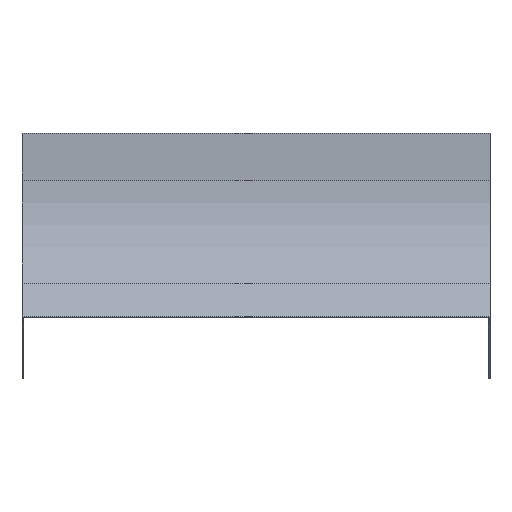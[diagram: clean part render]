
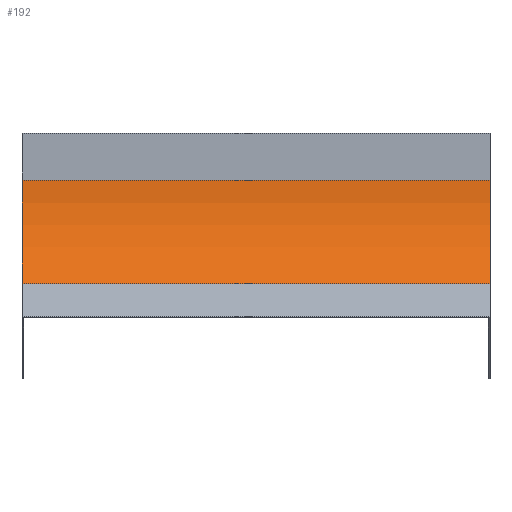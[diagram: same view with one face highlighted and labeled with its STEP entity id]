
A CAD part, front view. The second image highlights one B-rep face of the part: STEP entity #192.
In plain terms, the highlighted cylindrical face has radius 125 mm (diameter 250 mm), a partial arc.
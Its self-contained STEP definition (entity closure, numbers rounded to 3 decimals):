
#24 = EDGE_CURVE ( 'NONE', #1502, #1222, #84, .T. ) ;
#64 = VECTOR ( 'NONE', #1383, 1000. ) ;
#84 = CIRCLE ( 'NONE', #604, 125. ) ;
#149 = CARTESIAN_POINT ( 'NONE',  ( 200., -125., -40. ) ) ;
#192 = ADVANCED_FACE ( 'NONE', ( #1182 ), #1438, .F. ) ;
#241 = DIRECTION ( 'NONE',  ( -1., 0., 0. ) ) ;
#264 = AXIS2_PLACEMENT_3D ( 'NONE', #1536, #241, #897 ) ;
#350 = CARTESIAN_POINT ( 'NONE',  ( 200., -125., -40. ) ) ;
#389 = ORIENTED_EDGE ( 'NONE', *, *, #396, .T. ) ;
#396 = EDGE_CURVE ( 'NONE', #1502, #1453, #866, .T. ) ;
#439 = DIRECTION ( 'NONE',  ( 0., 0., 1. ) ) ;
#452 = CARTESIAN_POINT ( 'NONE',  ( 200., 0., -40. ) ) ;
#465 = EDGE_CURVE ( 'NONE', #1453, #526, #563, .T. ) ;
#477 = AXIS2_PLACEMENT_3D ( 'NONE', #149, #1223, #439 ) ;
#484 = CARTESIAN_POINT ( 'NONE',  ( 200., -36.612, -128.388 ) ) ;
#489 = ORIENTED_EDGE ( 'NONE', *, *, #1677, .F. ) ;
#526 = VERTEX_POINT ( 'NONE', #758 ) ;
#563 = CIRCLE ( 'NONE', #264, 125. ) ;
#581 = CARTESIAN_POINT ( 'NONE',  ( 200., 0., -40. ) ) ;
#604 = AXIS2_PLACEMENT_3D ( 'NONE', #350, #1378, #727 ) ;
#630 = ORIENTED_EDGE ( 'NONE', *, *, #24, .F. ) ;
#647 = DIRECTION ( 'NONE',  ( -1., 0., 0. ) ) ;
#727 = DIRECTION ( 'NONE',  ( 0., 0., 1. ) ) ;
#754 = LINE ( 'NONE', #1270, #1029 ) ;
#758 = CARTESIAN_POINT ( 'NONE',  ( -200., -36.612, -128.388 ) ) ;
#866 = LINE ( 'NONE', #581, #64 ) ;
#897 = DIRECTION ( 'NONE',  ( 0., 0., 1. ) ) ;
#1004 = EDGE_LOOP ( 'NONE', ( #1018, #489, #630, #389 ) ) ;
#1018 = ORIENTED_EDGE ( 'NONE', *, *, #465, .T. ) ;
#1029 = VECTOR ( 'NONE', #647, 1000. ) ;
#1082 = CARTESIAN_POINT ( 'NONE',  ( -200., 0., -40. ) ) ;
#1182 = FACE_OUTER_BOUND ( 'NONE', #1004, .T. ) ;
#1222 = VERTEX_POINT ( 'NONE', #484 ) ;
#1223 = DIRECTION ( 'NONE',  ( -1., 0., 0. ) ) ;
#1270 = CARTESIAN_POINT ( 'NONE',  ( 200., -36.612, -128.388 ) ) ;
#1378 = DIRECTION ( 'NONE',  ( -1., 0., 0. ) ) ;
#1383 = DIRECTION ( 'NONE',  ( -1., 0., 0. ) ) ;
#1438 = CYLINDRICAL_SURFACE ( 'NONE', #477, 125. ) ;
#1453 = VERTEX_POINT ( 'NONE', #1082 ) ;
#1502 = VERTEX_POINT ( 'NONE', #452 ) ;
#1536 = CARTESIAN_POINT ( 'NONE',  ( -200., -125., -40. ) ) ;
#1677 = EDGE_CURVE ( 'NONE', #1222, #526, #754, .T. ) ;
